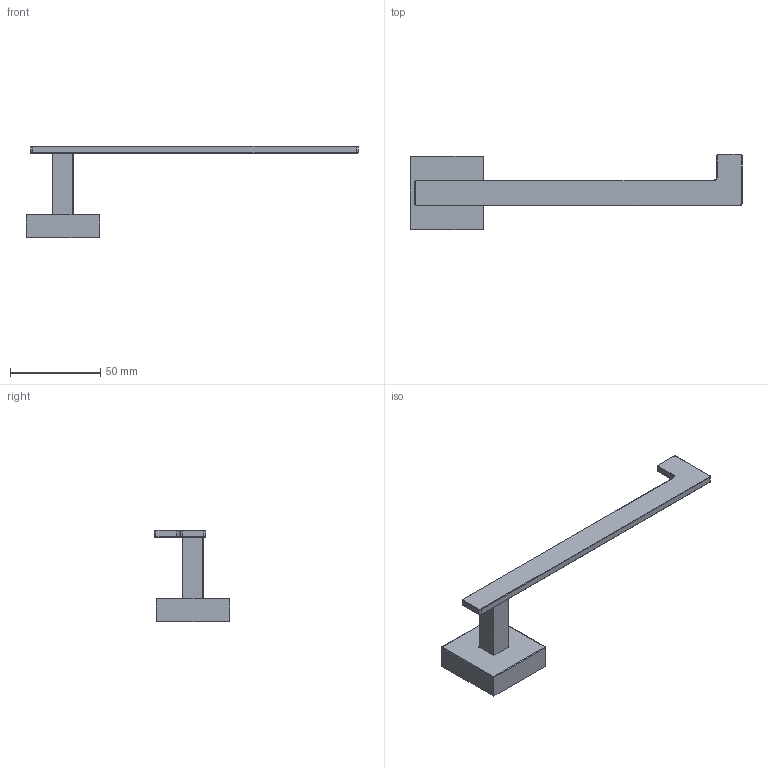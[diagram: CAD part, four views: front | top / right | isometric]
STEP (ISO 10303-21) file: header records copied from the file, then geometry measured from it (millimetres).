
FILE_DESCRIPTION(/* description */ (''),/* implementation_level */ '2;1');
FILE_NAME(/* name */ 'c:\worker\convert-fusion-r06\tmp\job-1\11\output\files\cd588946-4e0b-4d5d-a764-c0577b777d6c\211ab6de-697a-4668-8a55-4e029cc8b190.stp',/* time_stamp */ '2019-08-26T09:42:42+00:00',/* author */ (''),/* organization */ (''),/* preprocessor_version */ 'ST-DEVELOPER v18',/* originating_system */ 'Autodesk Translation Framework v8.6.0.1094',/* authorisation */ '');
FILE_SCHEMA (('AUTOMOTIVE_DESIGN { 1 0 10303 214 3 1 1 }'));
Length unit declared in the file: millimetre
Products named in the file (1): 8151B
Bounding box: 184.35 x 42.1 x 50.6 mm (x, y, z)
Volume: 23318.1 mm3; surface area: 15493.7 mm2
Topology: 2 solids, 2 shells, 70 faces, 156 edges, 92 vertices
Faces by surface type: cylinder 30, plane 24, torus 12, sphere 4
Entity records: 1956 total; most frequent: DIRECTION 370, CARTESIAN_POINT 319, ORIENTED_EDGE 312, EDGE_CURVE 156, AXIS2_PLACEMENT_3D 143, VERTEX_POINT 92, LINE 84, VECTOR 84
